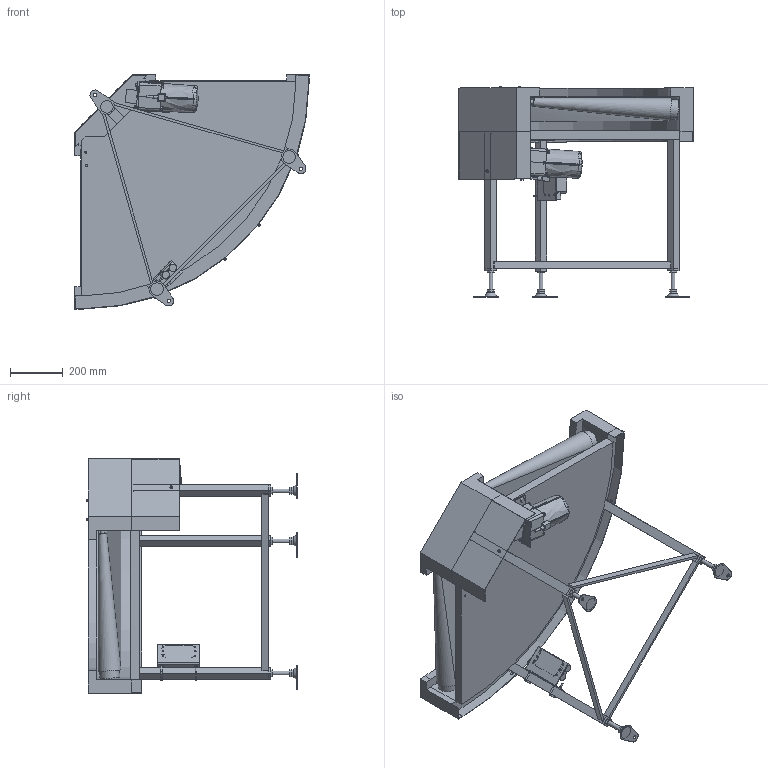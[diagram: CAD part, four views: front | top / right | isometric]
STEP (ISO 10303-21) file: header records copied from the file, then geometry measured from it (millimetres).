
FILE_DESCRIPTION( (''), '2;1');
FILE_NAME ('WEB-FBC-309-500-90°-R-K-60.stp','2025-10-17T09:59:21',(''),(''),'spGate 20.6.2 (****-****-****-****)','','');
FILE_SCHEMA (('AUTOMOTIVE_DESIGN'));
Length unit declared in the file: millimetre
Products named in the file (47): WEB-FBC-309-500-90_-R-K-60; TEMP_X_T-prt0; TEMP_X_T-prt1; TEMP_X_T-prt2; TEMP_X_T-prt3; TEMP_X_T-prt4; TEMP_X_T-prt5; TEMP_X_T-prt6; TEMP_X_T-prt7; TEMP_X_T-prt8; TEMP_X_T-prt9; TEMP_X_T-prt10; TEMP_X_T-prt11; TEMP_X_T-prt12; TEMP_X_T-prt13; TEMP_X_T-prt14; TEMP_X_T-prt15; TEMP_X_T-prt16; TEMP_X_T-prt17; TEMP_X_T-prt18; TEMP_X_T-prt19; TEMP_X_T-prt20; TEMP_X_T-prt21; TEMP_X_T-prt22; TEMP_X_T-prt23; TEMP_X_T-prt24; TEMP_X_T-prt25; TEMP_X_T-prt26; TEMP_X_T-prt27; TEMP_X_T-prt28; TEMP_X_T-prt29; TEMP_X_T-prt30; TEMP_X_T-prt31; TEMP_X_T-prt32; TEMP_X_T-prt33; TEMP_X_T-prt34; TEMP_X_T-prt35; TEMP_X_T-prt36; TEMP_X_T-prt37; TEMP_X_T-prt38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
Assembly tree (46 placements, depth 2):
  WEB-FBC-309-500-90_-R-K-60
    TEMP_X_T-prt0
    TEMP_X_T-prt1
    TEMP_X_T-prt2
    TEMP_X_T-prt3
    TEMP_X_T-prt4
    TEMP_X_T-prt5
    TEMP_X_T-prt6
    TEMP_X_T-prt7
    TEMP_X_T-prt8
    TEMP_X_T-prt9
    TEMP_X_T-prt10
    TEMP_X_T-prt11
    TEMP_X_T-prt12
    TEMP_X_T-prt13
    TEMP_X_T-prt14
    TEMP_X_T-prt15
    TEMP_X_T-prt16
    TEMP_X_T-prt17
    TEMP_X_T-prt18
    TEMP_X_T-prt19
    TEMP_X_T-prt20
    TEMP_X_T-prt21
    TEMP_X_T-prt22
    TEMP_X_T-prt23
    TEMP_X_T-prt24
    TEMP_X_T-prt25
    TEMP_X_T-prt26
    TEMP_X_T-prt27
    TEMP_X_T-prt28
    TEMP_X_T-prt29
    TEMP_X_T-prt30
    TEMP_X_T-prt31
    TEMP_X_T-prt32
    TEMP_X_T-prt33
    TEMP_X_T-prt34
    TEMP_X_T-prt35
    TEMP_X_T-prt36
    TEMP_X_T-prt37
    TEMP_X_T-prt38
    TEMP_X_T-prt39
    TEMP_X_T-prt40
    TEMP_X_T-prt41
    TEMP_X_T-prt42
    TEMP_X_T-prt43
    TEMP_X_T-prt44
    TEMP_X_T-prt45
Bounding box: 888 x 797.9 x 888 mm (x, y, z)
Volume: 68808880.3 mm3; surface area: 4822245.9 mm2
Topology: 46 solids, 46 shells, 1015 faces, 2569 edges, 1745 vertices
Faces by surface type: plane 657, cylinder 216, bspline 141, sphere 1
Full cylindrical faces by diameter (mm): 5 x14, 5.3 x3, 5.5 x3, 6 x10, 6.8 x3, 7 x4, 7.8 x1, 8 x16, 8.4 x7, 8.5 x4, 9 x9, 9.2 x9, 10 x12, 12.5 x4, 13 x7, 15 x4, 16 x12, 17 x7, 18 x1, 19 x2, 27.8 x3, 42 x1, 75 x2, 94 x1
Entity records: 57809 total; most frequent: CARTESIAN_POINT 11758, ORIENTED_EDGE 5128, DIRECTION 4891, COLOUR_RGB 3625, PRESENTATION_STYLE_ASSIGNMENT 3625, STYLED_ITEM 3625, EDGE_CURVE 2564, DRAUGHTING_PRE_DEFINED_CURVE_FONT 2564
